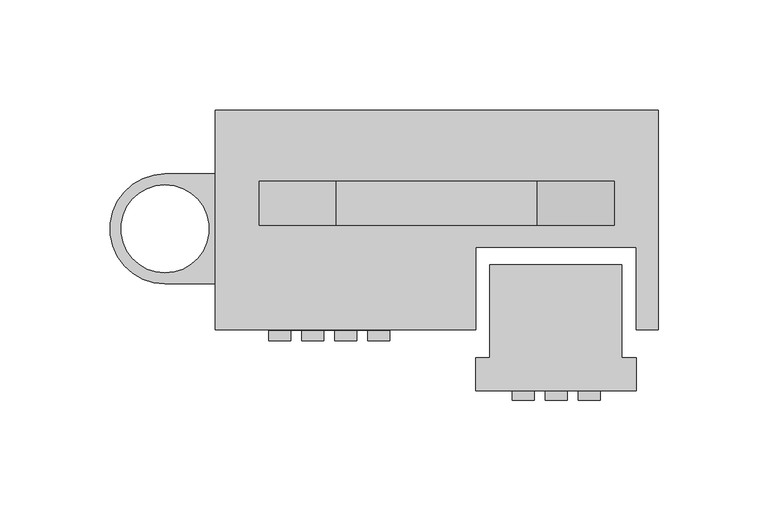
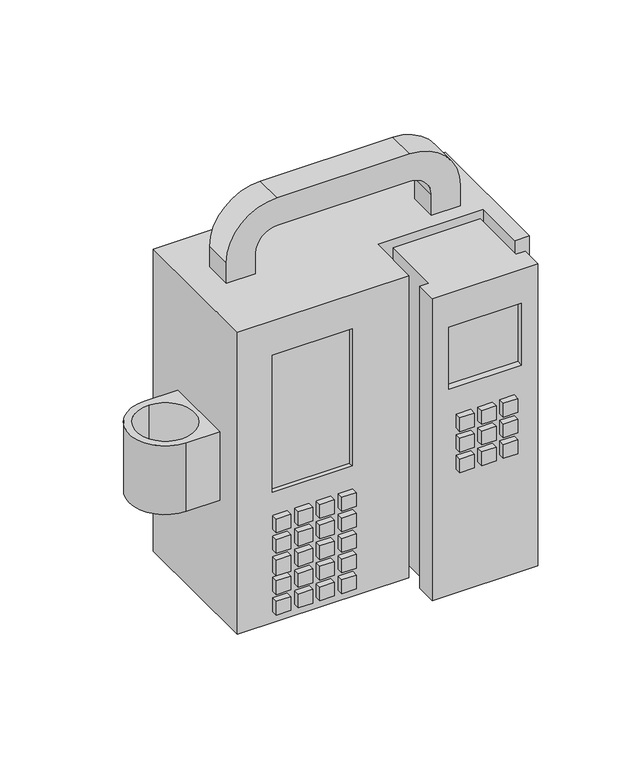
"""IFC4 building model written with IfcOpenShell, lengths in millimetres: proxy geometry, BIMHealth-IV_Pump-LOD2A-v1 : BIMHealth-IV_Pump-LOD2A-v1."""

from ifc_helpers import new_model, si_unit, point, frame, frame_2d, origin, place, context, project, spatial, polyline, circle_curve, trimmed, segment, composite_curve, outline, extrude, faceted_brep, source, transform, mapped, element, save
from ifc_brep_helpers import plane_surface, cylinder_surface, revolved_surface, advanced_brep


def generic_models_cb70edec(model_context):
    return source(origin(), model_context, "Body", "SolidModel", [
        extrude(outline(composite_curve([segment(polyline([(0.0, -29.0253718), (0.0, -79.0253718), (-22.9173929, -79.0253718)]), True, "CONTINUOUS"), segment(trimmed(circle_curve(frame_2d((-22.9173929, -54.0253718)), 25.0), [point((-22.9173929, -79.0253718))], [point((-22.9173929, -29.0253718))], False, "CARTESIAN"), True, "CONTINUOUS"), segment(polyline([(-22.9173929, -29.0253718), (0.0, -29.0253718)]), True, "CONTINUOUS")], self_intersect=False), holes=[composite_curve([segment(trimmed(circle_curve(frame_2d((-22.9173929, -54.0253718)), 20.0), [point((-22.9173929, -74.0253718))], [point((-22.9173929, -34.0253718))], True, "CARTESIAN"), True, "CONTINUOUS"), segment(trimmed(circle_curve(frame_2d((-22.9173929, -54.0253718)), 20.0), [point((-22.9173929, -34.0253718))], [point((-22.9173929, -74.0253718))], True, "CARTESIAN"), True, "CONTINUOUS")], self_intersect=False)]), frame((0.0, 0.0, 1285.0), z_axis=(0.0, 0.0, 1.0), x_axis=(1.0, 0.0, 0.0)), (0.0, 0.0, 1.0), 50.0),
        extrude(outline(polyline([(144.8677918, -132.0286208), (134.8677918, -132.0286208), (134.8677918, -127.675785), (144.8677918, -127.675785), (144.8677918, -132.0286208)])), frame((0.0, 0.0, 1305.0), z_axis=(0.0, 0.0, 1.0), x_axis=(1.0, 0.0, 0.0)), (0.0, 0.0, 1.0), 10.0),
        extrude(outline(polyline([(159.8677918, -132.0286208), (149.8677918, -132.0286208), (149.8677918, -127.675785), (159.8677918, -127.675785), (159.8677918, -132.0286208)])), frame((0.0, 0.0, 1305.0), z_axis=(0.0, 0.0, 1.0), x_axis=(1.0, 0.0, 0.0)), (0.0, 0.0, 1.0), 10.0),
        extrude(outline(polyline([(174.8677918, -132.0286208), (164.8677918, -132.0286208), (164.8677918, -127.675785), (174.8677918, -127.675785), (174.8677918, -132.0286208)])), frame((0.0, 0.0, 1305.0), z_axis=(0.0, 0.0, 1.0), x_axis=(1.0, 0.0, 0.0)), (0.0, 0.0, 1.0), 10.0),
        extrude(outline(polyline([(144.8677918, -132.0286208), (134.8677918, -132.0286208), (134.8677918, -127.675785), (144.8677918, -127.675785), (144.8677918, -132.0286208)])), frame((0.0, 0.0, 1290.0), z_axis=(0.0, 0.0, 1.0), x_axis=(1.0, 0.0, 0.0)), (0.0, 0.0, 1.0), 10.0),
        extrude(outline(polyline([(159.8677918, -132.0286208), (149.8677918, -132.0286208), (149.8677918, -127.675785), (159.8677918, -127.675785), (159.8677918, -132.0286208)])), frame((0.0, 0.0, 1290.0), z_axis=(0.0, 0.0, 1.0), x_axis=(1.0, 0.0, 0.0)), (0.0, 0.0, 1.0), 10.0),
        extrude(outline(polyline([(174.8677918, -132.0286208), (164.8677918, -132.0286208), (164.8677918, -127.675785), (174.8677918, -127.675785), (174.8677918, -132.0286208)])), frame((0.0, 0.0, 1290.0), z_axis=(0.0, 0.0, 1.0), x_axis=(1.0, 0.0, 0.0)), (0.0, 0.0, 1.0), 10.0),
        extrude(outline(polyline([(144.8677918, -132.0286208), (134.8677918, -132.0286208), (134.8677918, -127.675785), (144.8677918, -127.675785), (144.8677918, -132.0286208)])), frame((0.0, 0.0, 1320.0), z_axis=(0.0, 0.0, 1.0), x_axis=(1.0, 0.0, 0.0)), (0.0, 0.0, 1.0), 10.0),
        extrude(outline(polyline([(159.8677918, -132.0286208), (149.8677918, -132.0286208), (149.8677918, -127.675785), (159.8677918, -127.675785), (159.8677918, -132.0286208)])), frame((0.0, 0.0, 1320.0), z_axis=(0.0, 0.0, 1.0), x_axis=(1.0, 0.0, 0.0)), (0.0, 0.0, 1.0), 10.0),
        extrude(outline(polyline([(174.8677918, -132.0286208), (164.8677918, -132.0286208), (164.8677918, -127.675785), (174.8677918, -127.675785), (174.8677918, -132.0286208)])), frame((0.0, 0.0, 1320.0), z_axis=(0.0, 0.0, 1.0), x_axis=(1.0, 0.0, 0.0)), (0.0, 0.0, 1.0), 10.0),
        advanced_brep(
        [(0.0, -100.0, 1420.0), (118.3612561, -100.0, 1420.0), (118.3612561, -62.5, 1420.0), (191.2112561, -62.5, 1420.0), (191.2112561, -100.0, 1420.0), (201.2112561, -100.0, 1420.0), (201.2112561, 0.0, 1420.0), (0.0, 0.0, 1420.0), (40.0, -52.5, 1420.0), (20.0, -52.5, 1420.0), (20.0, -32.5, 1420.0), (40.0, -32.5, 1420.0), (181.2112561, -52.5, 1420.0), (161.2112561, -52.5, 1420.0), (161.2112561, -32.5, 1420.0), (181.2112561, -32.5, 1420.0), (0.0, -100.0, 1200.0), (0.0, 0.0, 1200.0), (201.2112561, 0.0, 1200.0), (201.2112561, -100.0, 1200.0), (191.2112561, -100.0, 1200.0), (191.2112561, -62.5, 1200.0), (118.3612561, -62.5, 1200.0), (118.3612561, -100.0, 1200.0), (79.1833907, -100.0, 1395.0), (79.1833907, -100.0, 1295.0), (24.1833907, -100.0, 1295.0), (24.1833907, -100.0, 1395.0), (79.1833907, -96.6063312, 1295.0), (79.1833907, -96.6063312, 1395.0), (24.1833907, -96.6063312, 1395.0), (24.1833907, -96.6063312, 1295.0), (40.0, -52.5, 1435.0), (55.0, -52.5, 1450.0), (146.2112561, -52.5, 1450.0), (161.2112561, -52.5, 1435.0), (181.2112561, -52.5, 1435.0), (146.2112561, -52.5, 1470.0), (55.0, -52.5, 1470.0), (20.0, -52.5, 1435.0), (20.0, -32.5, 1435.0), (55.0, -32.5, 1470.0), (146.2112561, -32.5, 1470.0), (181.2112561, -32.5, 1435.0), (161.2112561, -32.5, 1435.0), (146.2112561, -32.5, 1450.0), (55.0, -32.5, 1450.0), (40.0, -32.5, 1435.0)],
        [
            (0, 1),
            (1, 2),
            (2, 3),
            (3, 4),
            (4, 5),
            (5, 6),
            (6, 7),
            (7, 0),
            (8, 9),
            (9, 10),
            (10, 11),
            (11, 8),
            (12, 13),
            (13, 14),
            (14, 15),
            (15, 12),
            (16, 17),
            (17, 18),
            (18, 19),
            (19, 20),
            (20, 21),
            (21, 22),
            (22, 23),
            (23, 16),
            (0, 16),
            (23, 1),
            (24, 25),
            (25, 26),
            (26, 27),
            (27, 24),
            (5, 19),
            (18, 6),
            (17, 7),
            (28, 29),
            (29, 30),
            (30, 31),
            (31, 28),
            (28, 25),
            (24, 29),
            (27, 30),
            (26, 31),
            (22, 2),
            (21, 3),
            (20, 4),
            (8, 32),
            (32, 33, circle_curve(frame((55.0, -52.5, 1435.0), z_axis=(0.0, 1.0, 0.0), x_axis=(1.0, 0.0, 0.0)), 15.0)),
            (33, 34),
            (34, 35, circle_curve(frame((146.2112561, -52.5, 1435.0), z_axis=(0.0, 1.0, 0.0), x_axis=(-1.0, 0.0, 0.0)), 15.0)),
            (35, 13),
            (12, 36),
            (36, 37, circle_curve(frame((146.2112561, -52.5, 1435.0), z_axis=(0.0, -1.0, 0.0), x_axis=(-1.0, 0.0, 0.0)), 35.0)),
            (37, 38),
            (38, 39, circle_curve(frame((55.0, -52.5, 1435.0), z_axis=(0.0, -1.0, 0.0), x_axis=(1.0, 0.0, 0.0)), 35.0)),
            (39, 9),
            (10, 40),
            (40, 41, circle_curve(frame((55.0, -32.5, 1435.0), z_axis=(0.0, 1.0, 0.0), x_axis=(1.0, 0.0, 0.0)), 35.0)),
            (41, 42),
            (42, 43, circle_curve(frame((146.2112561, -32.5, 1435.0), z_axis=(0.0, 1.0, 0.0), x_axis=(-1.0, 0.0, 0.0)), 35.0)),
            (43, 15),
            (14, 44),
            (44, 45, circle_curve(frame((146.2112561, -32.5, 1435.0), z_axis=(0.0, -1.0, 0.0), x_axis=(-1.0, 0.0, 0.0)), 15.0)),
            (45, 46),
            (46, 47, circle_curve(frame((55.0, -32.5, 1435.0), z_axis=(0.0, -1.0, 0.0), x_axis=(1.0, 0.0, 0.0)), 15.0)),
            (47, 11),
            (47, 32),
            (46, 33),
            (45, 34),
            (44, 35),
            (43, 36),
            (42, 37),
            (41, 38),
            (40, 39),
        ],
        [
            plane_surface(frame((201.2112561, -100.0, 1420.0), z_axis=(0.0, 0.0, 1.0), x_axis=(1.0, 0.0, 0.0))),
            plane_surface(frame((201.2112561, -100.0, 1200.0), z_axis=(0.0, 0.0, -1.0), x_axis=(-1.0, 0.0, 0.0))),
            plane_surface(frame((0.0, -100.0, 1420.0), z_axis=(0.0, -1.0, 0.0), x_axis=(0.0, 0.0, -1.0))),
            plane_surface(frame((201.2112561, -100.0, 1420.0), z_axis=(1.0, 0.0, 0.0), x_axis=(0.0, 0.0, -1.0))),
            plane_surface(frame((201.2112561, 0.0, 1420.0), z_axis=(0.0, 1.0, 0.0), x_axis=(0.0, 0.0, -1.0))),
            plane_surface(frame((0.0, 0.0, 1420.0), z_axis=(-1.0, 0.0, 0.0), x_axis=(0.0, 0.0, -1.0))),
            plane_surface(frame((79.1833907, -96.6063312, 1263.5321849), z_axis=(0.0, -1.0, 0.0), x_axis=(0.0, 0.0, -1.0))),
            plane_surface(frame((79.1833907, -104.6665421, 1295.0), z_axis=(-1.0, 0.0, 0.0), x_axis=(0.0, 1.0, 0.0))),
            plane_surface(frame((79.1833907, -104.6665421, 1395.0), z_axis=(0.0, 0.0, -1.0), x_axis=(0.0, 1.0, 0.0))),
            plane_surface(frame((24.1833907, -104.6665421, 1395.0), z_axis=(1.0, 0.0, 0.0), x_axis=(0.0, 1.0, 0.0))),
            plane_surface(frame((24.1833907, -104.6665421, 1295.0), z_axis=(0.0, 0.0, 1.0), x_axis=(0.0, 1.0, 0.0))),
            plane_surface(frame((118.3612561, -100.0, 1420.0), z_axis=(1.0, 0.0, 0.0), x_axis=(0.0, 0.0, -1.0))),
            plane_surface(frame((118.3612561, -62.5, 1420.0), z_axis=(0.0, -1.0, 0.0), x_axis=(0.0, 0.0, -1.0))),
            plane_surface(frame((191.2112561, -62.5, 1420.0), z_axis=(-1.0, 0.0, 0.0), x_axis=(0.0, 0.0, -1.0))),
            plane_surface(frame((191.2112561, -100.0, 1420.0), z_axis=(0.0, -1.0, 0.0), x_axis=(0.0, 0.0, -1.0))),
            plane_surface(frame((20.0, -52.5, 1420.0), z_axis=(0.0, -1.0, 0.0), x_axis=(1.0, 0.0, 0.0))),
            plane_surface(frame((20.0, -32.5, 1420.0), z_axis=(0.0, 1.0, 0.0), x_axis=(-1.0, 0.0, 0.0))),
            plane_surface(frame((40.0, -52.5, 1420.0), z_axis=(1.0, 0.0, 0.0), x_axis=(0.0, 1.0, 0.0))),
            revolved_surface(polyline([(70.0, -32.5, 1435.0), (70.0, -52.5, 1435.0)]), (55.0, -32.5, 1435.0), (0.0, 1.0, 0.0)),
            plane_surface(frame((55.0, -52.5, 1450.0), z_axis=(0.0, 0.0, -1.0), x_axis=(0.0, 1.0, 0.0))),
            revolved_surface(polyline([(131.2112561, -32.5, 1435.0), (131.2112561, -52.5, 1435.0)]), (146.2112561, -32.5, 1435.0), (0.0, 1.0, 0.0)),
            plane_surface(frame((161.2112561, -52.5, 1435.0), z_axis=(-1.0, 0.0, 0.0), x_axis=(0.0, 1.0, 0.0))),
            plane_surface(frame((181.2112561, -52.5, 1420.0), z_axis=(1.0, 0.0, 0.0), x_axis=(0.0, 1.0, 0.0))),
            cylinder_surface(frame((146.2112561, -32.5, 1435.0), z_axis=(0.0, -1.0, 0.0), x_axis=(-1.0, 0.0, 0.0)), 35.0),
            plane_surface(frame((146.2112561, -52.5, 1470.0), z_axis=(0.0, 0.0, 1.0), x_axis=(0.0, 1.0, 0.0))),
            cylinder_surface(frame((55.0, -32.5, 1435.0), z_axis=(0.0, -1.0, 0.0), x_axis=(1.0, 0.0, 0.0)), 35.0),
            plane_surface(frame((20.0, -52.5, 1435.0), z_axis=(-1.0, 0.0, 0.0), x_axis=(0.0, 1.0, 0.0))),
        ],
        [
            (0, [[1, 2, 3, 4, 5, 6, 7, 8], [9, 10, 11, 12], [13, 14, 15, 16]]),
            (1, [[17, 18, 19, 20, 21, 22, 23, 24]]),
            (2, [[-1, 25, -24, 26], [27, 28, 29, 30]]),
            (3, [[-6, 31, -19, 32]]),
            (4, [[-7, -32, -18, 33]]),
            (5, [[-8, -33, -17, -25]]),
            (6, [[34, 35, 36, 37]]),
            (7, [[-34, 38, -27, 39]]),
            (8, [[-35, -39, -30, 40]]),
            (9, [[-36, -40, -29, 41]]),
            (10, [[-37, -41, -28, -38]]),
            (11, [[-2, -26, -23, 42]]),
            (12, [[-3, -42, -22, 43]]),
            (13, [[-4, -43, -21, 44]]),
            (14, [[-5, -44, -20, -31]]),
            (15, [[45, 46, 47, 48, 49, -13, 50, 51, 52, 53, 54, -9]]),
            (16, [[55, 56, 57, 58, 59, -15, 60, 61, 62, 63, 64, -11]]),
            (17, [[-45, -12, -64, 65]]),
            (18, [[-46, -65, -63, 66]]),
            (19, [[-47, -66, -62, 67]]),
            (20, [[-48, -67, -61, 68]]),
            (21, [[-49, -68, -60, -14]]),
            (22, [[-50, -16, -59, 69]]),
            (23, [[-51, -69, -58, 70]]),
            (24, [[-52, -70, -57, 71]]),
            (25, [[-53, -71, -56, 72]]),
            (26, [[-54, -72, -55, -10]]),
        ],
    ),
        faceted_brep([(184.6456597, -70.2680014, 1420.0), (124.6456597, -70.2680014, 1420.0), (124.6456597, -112.675785, 1420.0), (118.3612561, -112.675785, 1420.0), (118.3612561, -127.675785, 1420.0), (191.2112561, -127.675785, 1420.0), (191.2112561, -112.675785, 1420.0), (184.6456597, -112.675785, 1420.0), (184.6456597, -70.2680014, 1200.0), (184.6456597, -112.675785, 1200.0), (191.2112561, -112.675785, 1200.0), (191.2112561, -127.675785, 1200.0), (118.3612561, -127.675785, 1200.0), (118.3612561, -112.675785, 1200.0), (124.6456597, -112.675785, 1200.0), (124.6456597, -70.2680014, 1200.0), (129.8083907, -127.675785, 1395.0), (179.8083907, -127.675785, 1395.0), (179.8083907, -127.675785, 1350.0), (129.8083907, -127.675785, 1350.0), (179.8083907, -123.1340908, 1395.0), (129.8083907, -123.1340908, 1395.0), (129.8083907, -123.1340908, 1350.0), (179.8083907, -123.1340908, 1350.0)], [[[0, 1, 2, 3, 4, 5, 6, 7]], [[8, 9, 10, 11, 12, 13, 14, 15]], [[1, 0, 8, 15]], [[2, 1, 15, 14]], [[3, 2, 14, 13]], [[4, 3, 13, 12]], [[5, 4, 12, 11], [16, 17, 18, 19]], [[6, 5, 11, 10]], [[7, 6, 10, 9]], [[0, 7, 9, 8]], [[20, 21, 22, 23]], [[21, 20, 17, 16]], [[22, 21, 16, 19]], [[23, 22, 19, 18]], [[20, 23, 18, 17]]]),
        extrude(outline(polyline([(34.1833907, -104.831997), (24.1833907, -104.831997), (24.1833907, -100.0), (34.1833907, -100.0), (34.1833907, -104.831997)])), frame((0.0, 0.0, 1253.5321849), z_axis=(0.0, 0.0, 1.0), x_axis=(1.0, 0.0, 0.0)), (0.0, 0.0, 1.0), 10.0),
        extrude(outline(polyline([(49.1833907, -104.831997), (39.1833907, -104.831997), (39.1833907, -100.0), (49.1833907, -100.0), (49.1833907, -104.831997)])), frame((0.0, 0.0, 1253.5321849), z_axis=(0.0, 0.0, 1.0), x_axis=(1.0, 0.0, 0.0)), (0.0, 0.0, 1.0), 10.0),
        extrude(outline(polyline([(64.1833907, -104.831997), (54.1833907, -104.831997), (54.1833907, -100.0), (64.1833907, -100.0), (64.1833907, -104.831997)])), frame((0.0, 0.0, 1253.5321849), z_axis=(0.0, 0.0, 1.0), x_axis=(1.0, 0.0, 0.0)), (0.0, 0.0, 1.0), 10.0),
        extrude(outline(polyline([(79.1833907, -104.831997), (69.1833907, -104.831997), (69.1833907, -100.0), (79.1833907, -100.0), (79.1833907, -104.831997)])), frame((0.0, 0.0, 1253.5321849), z_axis=(0.0, 0.0, 1.0), x_axis=(1.0, 0.0, 0.0)), (0.0, 0.0, 1.0), 10.0),
        extrude(outline(polyline([(34.1833907, -104.831997), (24.1833907, -104.831997), (24.1833907, -100.0), (34.1833907, -100.0), (34.1833907, -104.831997)])), frame((0.0, 0.0, 1237.0754502), z_axis=(0.0, 0.0, 1.0), x_axis=(1.0, 0.0, 0.0)), (0.0, 0.0, 1.0), 11.4567347),
        extrude(outline(polyline([(49.1833907, -104.831997), (39.1833907, -104.831997), (39.1833907, -100.0), (49.1833907, -100.0), (49.1833907, -104.831997)])), frame((0.0, 0.0, 1238.5321849), z_axis=(0.0, 0.0, 1.0), x_axis=(1.0, 0.0, 0.0)), (0.0, 0.0, 1.0), 10.0),
        extrude(outline(polyline([(64.1833907, -104.831997), (54.1833907, -104.831997), (54.1833907, -100.0), (64.1833907, -100.0), (64.1833907, -104.831997)])), frame((0.0, 0.0, 1238.5321849), z_axis=(0.0, 0.0, 1.0), x_axis=(1.0, 0.0, 0.0)), (0.0, 0.0, 1.0), 10.0),
        extrude(outline(polyline([(79.1833907, -104.831997), (69.1833907, -104.831997), (69.1833907, -100.0), (79.1833907, -100.0), (79.1833907, -104.831997)])), frame((0.0, 0.0, 1238.5321849), z_axis=(0.0, 0.0, 1.0), x_axis=(1.0, 0.0, 0.0)), (0.0, 0.0, 1.0), 10.0),
        extrude(outline(polyline([(34.1833907, -104.831997), (24.1833907, -104.831997), (24.1833907, -100.0), (34.1833907, -100.0), (34.1833907, -104.831997)])), frame((0.0, 0.0, 1223.5321849), z_axis=(0.0, 0.0, 1.0), x_axis=(1.0, 0.0, 0.0)), (0.0, 0.0, 1.0), 10.0),
        extrude(outline(polyline([(49.1833907, -104.831997), (39.1833907, -104.831997), (39.1833907, -100.0), (49.1833907, -100.0), (49.1833907, -104.831997)])), frame((0.0, 0.0, 1223.5321849), z_axis=(0.0, 0.0, 1.0), x_axis=(1.0, 0.0, 0.0)), (0.0, 0.0, 1.0), 10.0),
        extrude(outline(polyline([(64.1833907, -104.831997), (54.1833907, -104.831997), (54.1833907, -100.0), (64.1833907, -100.0), (64.1833907, -104.831997)])), frame((0.0, 0.0, 1223.5321849), z_axis=(0.0, 0.0, 1.0), x_axis=(1.0, 0.0, 0.0)), (0.0, 0.0, 1.0), 10.0),
        extrude(outline(polyline([(79.1833907, -104.831997), (69.1833907, -104.831997), (69.1833907, -100.0), (79.1833907, -100.0), (79.1833907, -104.831997)])), frame((0.0, 0.0, 1223.5321849), z_axis=(0.0, 0.0, 1.0), x_axis=(1.0, 0.0, 0.0)), (0.0, 0.0, 1.0), 10.0),
        extrude(outline(polyline([(34.1833907, -104.831997), (24.1833907, -104.831997), (24.1833907, -100.0), (34.1833907, -100.0), (34.1833907, -104.831997)])), frame((0.0, 0.0, 1208.5321849), z_axis=(0.0, 0.0, 1.0), x_axis=(1.0, 0.0, 0.0)), (0.0, 0.0, 1.0), 10.0),
        extrude(outline(polyline([(49.1833907, -104.831997), (39.1833907, -104.831997), (39.1833907, -100.0), (49.1833907, -100.0), (49.1833907, -104.831997)])), frame((0.0, 0.0, 1208.5321849), z_axis=(0.0, 0.0, 1.0), x_axis=(1.0, 0.0, 0.0)), (0.0, 0.0, 1.0), 10.0),
        extrude(outline(polyline([(64.1833907, -104.831997), (54.1833907, -104.831997), (54.1833907, -100.0), (64.1833907, -100.0), (64.1833907, -104.831997)])), frame((0.0, 0.0, 1208.5321849), z_axis=(0.0, 0.0, 1.0), x_axis=(1.0, 0.0, 0.0)), (0.0, 0.0, 1.0), 10.0),
        extrude(outline(polyline([(79.1833907, -104.831997), (69.1833907, -104.831997), (69.1833907, -100.0), (79.1833907, -100.0), (79.1833907, -104.831997)])), frame((0.0, 0.0, 1208.5321849), z_axis=(0.0, 0.0, 1.0), x_axis=(1.0, 0.0, 0.0)), (0.0, 0.0, 1.0), 10.0),
        extrude(outline(polyline([(34.1833907, -104.831997), (24.1833907, -104.831997), (24.1833907, -100.0), (34.1833907, -100.0), (34.1833907, -104.831997)])), frame((0.0, 0.0, 1268.5321849), z_axis=(0.0, 0.0, 1.0), x_axis=(1.0, 0.0, 0.0)), (0.0, 0.0, 1.0), 10.0),
        extrude(outline(polyline([(49.1833907, -104.831997), (39.1833907, -104.831997), (39.1833907, -100.0), (49.1833907, -100.0), (49.1833907, -104.831997)])), frame((0.0, 0.0, 1268.5321849), z_axis=(0.0, 0.0, 1.0), x_axis=(1.0, 0.0, 0.0)), (0.0, 0.0, 1.0), 10.0),
        extrude(outline(polyline([(64.1833907, -104.831997), (54.1833907, -104.831997), (54.1833907, -100.0), (64.1833907, -100.0), (64.1833907, -104.831997)])), frame((0.0, 0.0, 1268.5321849), z_axis=(0.0, 0.0, 1.0), x_axis=(1.0, 0.0, 0.0)), (0.0, 0.0, 1.0), 10.0),
        extrude(outline(polyline([(79.1833907, -104.831997), (69.1833907, -104.831997), (69.1833907, -100.0), (79.1833907, -100.0), (79.1833907, -104.831997)])), frame((0.0, 0.0, 1268.5321849), z_axis=(0.0, 0.0, 1.0), x_axis=(1.0, 0.0, 0.0)), (0.0, 0.0, 1.0), 10.0),
    ])


if __name__ == "__main__":
    model = new_model("IFC4")
    model_context = context("Model", 3, world=origin())
    ifc_project = project(units=[si_unit("LENGTHUNIT", "METRE", prefix="MILLI")], contexts=[model_context])
    site = spatial("IfcSite", under=ifc_project)
    building = spatial("IfcBuilding", under=site)
    placement = place(None, origin())
    generic_models_shape = generic_models_cb70edec(model_context)
    element("IfcBuildingElementProxy", 1, Name="BIMHealth-IV_Pump-LOD2A-v1 : BIMHealth-IV_Pump-LOD2A-v1", ObjectType="BIMHealth-IV_Pump-LOD2A-v1 : BIMHealth-IV_Pump-LOD2A-v1", at=placement, inside=building, context=model_context, shape_type="MappedRepresentation", body=[
        mapped(generic_models_shape, transform((0.0, 0.0, 0.0), x_axis=(1.0, 0.0, 0.0), y_axis=(0.0, 1.0, 0.0), z_axis=(0.0, 0.0, 1.0))),
    ])
    save(model, "model.ifc")
